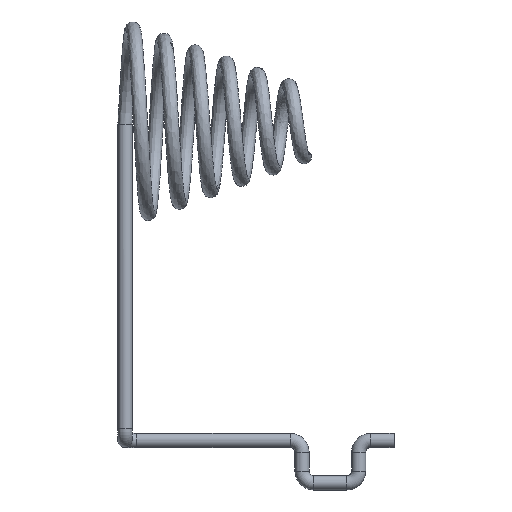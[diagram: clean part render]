
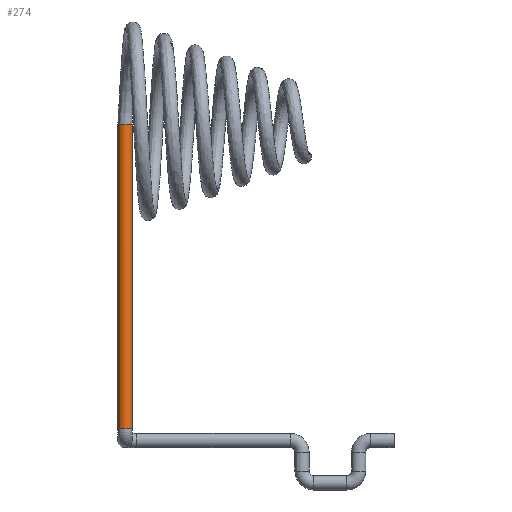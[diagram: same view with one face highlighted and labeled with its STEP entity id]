
A CAD part, left-side view. The second image highlights one B-rep face of the part: STEP entity #274.
In plain terms, the highlighted cylindrical face has radius 0.3 mm (diameter 0.6 mm), a full revolution.
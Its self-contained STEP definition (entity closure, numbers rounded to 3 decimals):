
#38=FACE_OUTER_BOUND('',#54,.T.);
#54=EDGE_LOOP('',(#240,#241,#242,#243,#244,#245,#246));
#63=LINE('',#518,#70);
#70=VECTOR('',#433,0.3);
#98=CIRCLE('',#331,0.3);
#99=CIRCLE('',#332,0.3);
#100=CIRCLE('',#334,0.3);
#101=CIRCLE('',#335,0.3);
#102=CIRCLE('',#336,0.3);
#125=VERTEX_POINT('',#511);
#126=VERTEX_POINT('',#513);
#127=VERTEX_POINT('',#517);
#128=VERTEX_POINT('',#519);
#129=VERTEX_POINT('',#521);
#164=EDGE_CURVE('',#125,#126,#98,.T.);
#165=EDGE_CURVE('',#126,#125,#99,.T.);
#166=EDGE_CURVE('',#126,#127,#63,.T.);
#167=EDGE_CURVE('',#127,#128,#100,.T.);
#168=EDGE_CURVE('',#128,#129,#101,.T.);
#169=EDGE_CURVE('',#129,#127,#102,.T.);
#240=ORIENTED_EDGE('',*,*,#165,.F.);
#241=ORIENTED_EDGE('',*,*,#166,.T.);
#242=ORIENTED_EDGE('',*,*,#167,.T.);
#243=ORIENTED_EDGE('',*,*,#168,.T.);
#244=ORIENTED_EDGE('',*,*,#169,.T.);
#245=ORIENTED_EDGE('',*,*,#166,.F.);
#246=ORIENTED_EDGE('',*,*,#164,.F.);
#260=CYLINDRICAL_SURFACE('',#333,0.3);
#274=ADVANCED_FACE('',(#38),#260,.T.);
#331=AXIS2_PLACEMENT_3D('',#514,#427,#428);
#332=AXIS2_PLACEMENT_3D('',#515,#429,#430);
#333=AXIS2_PLACEMENT_3D('',#516,#431,#432);
#334=AXIS2_PLACEMENT_3D('',#520,#434,#435);
#335=AXIS2_PLACEMENT_3D('',#522,#436,#437);
#336=AXIS2_PLACEMENT_3D('',#523,#438,#439);
#427=DIRECTION('center_axis',(0.,0.,-1.));
#428=DIRECTION('ref_axis',(1.,0.,0.));
#429=DIRECTION('center_axis',(0.,0.,-1.));
#430=DIRECTION('ref_axis',(1.,0.,0.));
#431=DIRECTION('center_axis',(0.,0.,-1.));
#432=DIRECTION('ref_axis',(1.,0.,0.));
#433=DIRECTION('',(0.,0.,1.));
#434=DIRECTION('center_axis',(0.,0.,-1.));
#435=DIRECTION('ref_axis',(-1.,0.,0.));
#436=DIRECTION('center_axis',(0.,0.,-1.));
#437=DIRECTION('ref_axis',(-1.,0.,0.));
#438=DIRECTION('center_axis',(0.,0.,-1.));
#439=DIRECTION('ref_axis',(-1.,0.,0.));
#511=CARTESIAN_POINT('',(4.45,0.,-12.9));
#513=CARTESIAN_POINT('',(3.85,0.,-12.9));
#514=CARTESIAN_POINT('Origin',(4.15,0.,-12.9));
#515=CARTESIAN_POINT('Origin',(4.15,0.,-12.9));
#516=CARTESIAN_POINT('Origin',(4.15,0.,0.));
#517=CARTESIAN_POINT('',(3.85,0.,0.));
#518=CARTESIAN_POINT('',(3.85,0.,0.));
#519=CARTESIAN_POINT('',(3.868,0.103,0.));
#520=CARTESIAN_POINT('Origin',(4.15,0.,0.));
#521=CARTESIAN_POINT('',(4.45,0.,0.));
#522=CARTESIAN_POINT('Origin',(4.15,0.,0.));
#523=CARTESIAN_POINT('Origin',(4.15,0.,0.));
